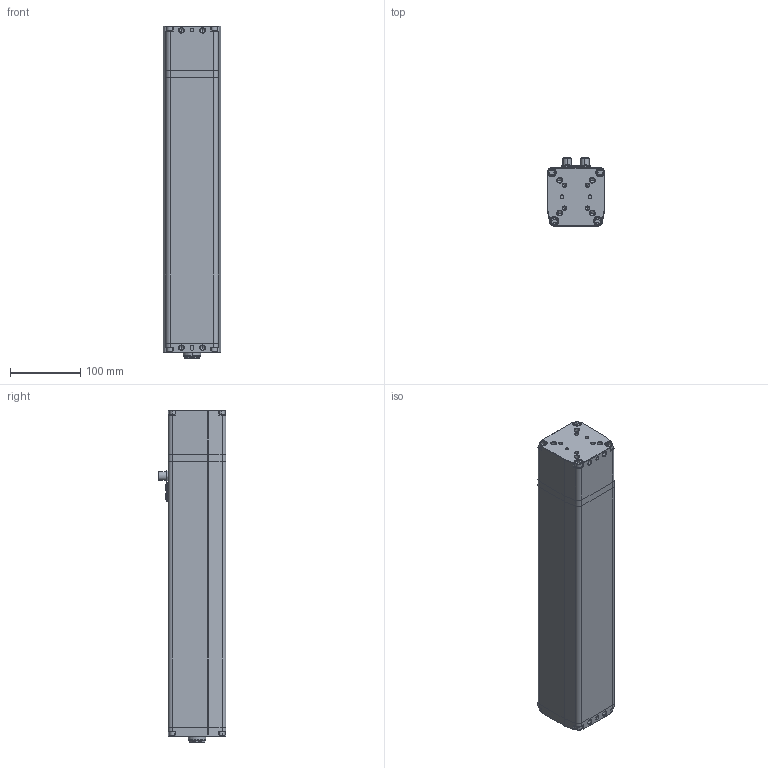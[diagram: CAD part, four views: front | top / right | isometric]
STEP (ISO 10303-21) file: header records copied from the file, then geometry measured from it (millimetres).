
FILE_DESCRIPTION (( 'STEP AP203' ), '1' );
FILE_NAME ('CTC-080-K__-____-_.step', '2023-09-29T09:57:06', ( '' ), ( '' ), 'SwSTEP 2.0', 'SolidWorks 2020', '' );
FILE_SCHEMA (( 'CONFIG_CONTROL_DESIGN' ));
Length unit declared in the file: millimetre
Products named in the file (4): CTC-080_Aufsatz-I_M10; CTC-080_housing_Hub_0300; CTC-080-K__-____-_; CTC-080_Schubrohr_Hub 0300
Assembly tree (3 placements, depth 2):
  CTC-080-K__-____-_
    CTC-080_housing_Hub_0300
    CTC-080_Schubrohr_Hub 0300
    CTC-080_Aufsatz-I_M10
Bounding box: 82 x 96.3 x 472 mm (x, y, z)
Volume: 2739143.1 mm3; surface area: 341711.4 mm2
Topology: 30 solids, 30 shells, 794 faces, 1773 edges, 1092 vertices
Faces by surface type: cylinder 305, plane 297, cone 116, torus 68, sphere 8
Entity records: 22301 total; most frequent: DIRECTION 4133, CARTESIAN_POINT 3791, ORIENTED_EDGE 3478, EDGE_CURVE 1739, AXIS2_PLACEMENT_3D 1630, VERTEX_POINT 1092, EDGE_LOOP 889, LINE 873
